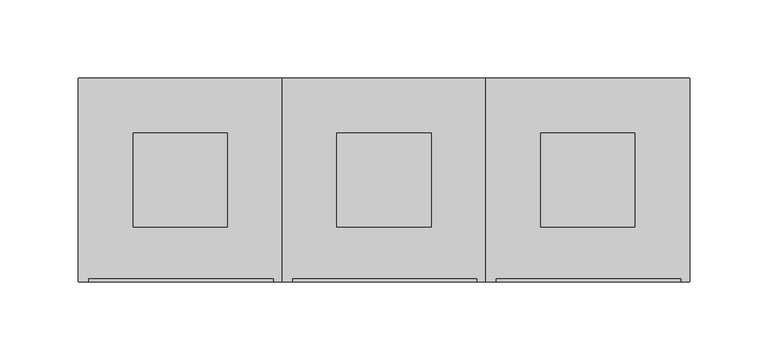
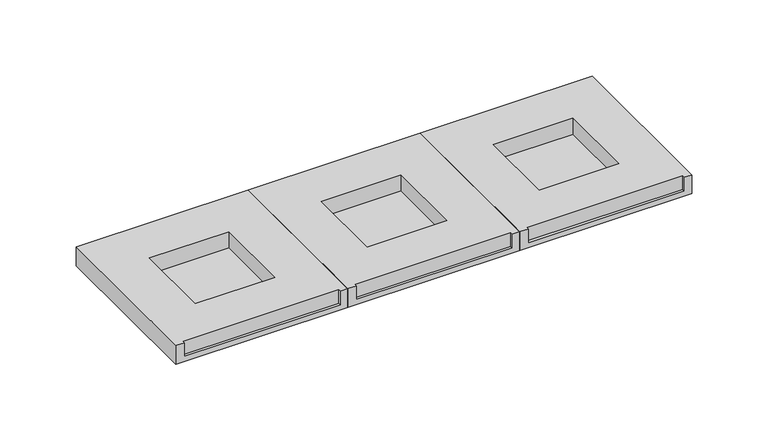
"""IFC4 building model written with IfcOpenShell, lengths in millimetres: duct fitting geometry, Суппорт универсальный - 3 поста - для кабель-каналов DLP - белый : 130мм."""

from ifc_helpers import new_model, si_unit, origin, origin_with_axes, place, context, project, spatial, polyline, outline, extrude, faceted_brep, source, transform, mapped, element, save


def duct_fitting_eff4ef8f(model_context):
    return source(origin(), model_context, "Body", "SolidModel", [
        extrude(outline(polyline([(290.0, -30.0), (230.0, -30.0), (230.0, 30.0), (290.0, 30.0), (290.0, -30.0)])), origin_with_axes(), (0.0, 0.0, 1.0), 2.0),
        faceted_brep([(325.0, -65.0, 15.0), (325.0, 65.0, 15.0), (195.0, 65.0, 15.0), (195.0, -65.0, 15.0), (201.3673154, -65.0, 15.0), (201.3673154, -63.0, 15.0), (319.5913444, -63.0, 15.0), (319.5913444, -65.0, 15.0), (290.0, -30.0, 15.0), (230.0, -30.0, 15.0), (230.0, 30.0, 15.0), (290.0, 30.0, 15.0), (325.0, -65.0, 0.0), (195.0, -65.0, 0.0), (195.0, 65.0, 0.0), (325.0, 65.0, 0.0), (290.0, -30.0, 0.0), (290.0, 30.0, 0.0), (230.0, 30.0, 0.0), (230.0, -30.0, 0.0), (319.5913444, -65.0, 3.9555715), (201.3673154, -65.0, 3.9555715), (319.5913444, -63.0, 3.9555715), (201.3673154, -63.0, 3.9555715)], [[[0, 1, 2, 3, 4, 5, 6, 7], [8, 9, 10, 11]], [[12, 13, 14, 15], [16, 17, 18, 19]], [[1, 0, 12, 15]], [[2, 1, 15, 14]], [[3, 2, 14, 13]], [[13, 12, 0, 7, 20, 21, 4, 3]], [[9, 8, 16, 19]], [[10, 9, 19, 18]], [[11, 10, 18, 17]], [[8, 11, 17, 16]], [[6, 22, 20, 7]], [[22, 23, 21, 20]], [[23, 5, 4, 21]], [[5, 23, 22, 6]]]),
        extrude(outline(polyline([(160.0, -30.0), (100.0, -30.0), (100.0, 30.0), (160.0, 30.0), (160.0, -30.0)])), origin_with_axes(), (0.0, 0.0, 1.0), 2.0),
        faceted_brep([(195.0, -65.0, 15.0), (195.0, 65.0, 15.0), (65.0, 65.0, 15.0), (65.0, -65.0, 15.0), (71.3673154, -65.0, 15.0), (71.3673154, -63.0, 15.0), (189.5913444, -63.0, 15.0), (189.5913444, -65.0, 15.0), (160.0, -30.0, 15.0), (100.0, -30.0, 15.0), (100.0, 30.0, 15.0), (160.0, 30.0, 15.0), (195.0, -65.0, 0.0), (65.0, -65.0, 0.0), (65.0, 65.0, 0.0), (195.0, 65.0, 0.0), (160.0, -30.0, 0.0), (160.0, 30.0, 0.0), (100.0, 30.0, 0.0), (100.0, -30.0, 0.0), (189.5913444, -65.0, 3.9555715), (71.3673154, -65.0, 3.9555715), (189.5913444, -63.0, 3.9555715), (71.3673154, -63.0, 3.9555715)], [[[0, 1, 2, 3, 4, 5, 6, 7], [8, 9, 10, 11]], [[12, 13, 14, 15], [16, 17, 18, 19]], [[1, 0, 12, 15]], [[2, 1, 15, 14]], [[3, 2, 14, 13]], [[13, 12, 0, 7, 20, 21, 4, 3]], [[9, 8, 16, 19]], [[10, 9, 19, 18]], [[11, 10, 18, 17]], [[8, 11, 17, 16]], [[6, 22, 20, 7]], [[22, 23, 21, 20]], [[23, 5, 4, 21]], [[5, 23, 22, 6]]]),
        extrude(outline(polyline([(30.0, -30.0), (-30.0, -30.0), (-30.0, 30.0), (30.0, 30.0), (30.0, -30.0)])), origin_with_axes(), (0.0, 0.0, 1.0), 2.0),
        faceted_brep([(65.0, -65.0, 15.0), (65.0, 65.0, 15.0), (-65.0, 65.0, 15.0), (-65.0, -65.0, 15.0), (-58.6326846, -65.0, 15.0), (-58.6326846, -63.0, 15.0), (59.5913444, -63.0, 15.0), (59.5913444, -65.0, 15.0), (30.0, -30.0, 15.0), (-30.0, -30.0, 15.0), (-30.0, 30.0, 15.0), (30.0, 30.0, 15.0), (65.0, -65.0, 0.0), (-65.0, -65.0, 0.0), (-65.0, 65.0, 0.0), (65.0, 65.0, 0.0), (30.0, -30.0, 0.0), (30.0, 30.0, 0.0), (-30.0, 30.0, 0.0), (-30.0, -30.0, 0.0), (59.5913444, -65.0, 3.9555715), (-58.6326846, -65.0, 3.9555715), (59.5913444, -63.0, 3.9555715), (-58.6326846, -63.0, 3.9555715)], [[[0, 1, 2, 3, 4, 5, 6, 7], [8, 9, 10, 11]], [[12, 13, 14, 15], [16, 17, 18, 19]], [[1, 0, 12, 15]], [[2, 1, 15, 14]], [[3, 2, 14, 13]], [[13, 12, 0, 7, 20, 21, 4, 3]], [[9, 8, 16, 19]], [[10, 9, 19, 18]], [[11, 10, 18, 17]], [[8, 11, 17, 16]], [[6, 22, 20, 7]], [[22, 23, 21, 20]], [[23, 5, 4, 21]], [[5, 23, 22, 6]]]),
    ])


if __name__ == "__main__":
    model = new_model("IFC4")
    model_context = context("Model", 3, world=origin())
    ifc_project = project(units=[si_unit("LENGTHUNIT", "METRE", prefix="MILLI")], contexts=[model_context])
    site = spatial("IfcSite", under=ifc_project)
    building = spatial("IfcBuilding", under=site)
    placement = place(None, origin())
    duct_fitting_shape = duct_fitting_eff4ef8f(model_context)
    element("IfcDuctFitting", 1, ObjectType="Суппорт универсальный - 3 поста - для кабель-каналов DLP - белый : 130мм", at=placement, inside=building, context=model_context, shape_type="MappedRepresentation", body=[
        mapped(duct_fitting_shape, transform((0.0, 0.0, 0.0), x_axis=(1.0, 0.0, 0.0), y_axis=(0.0, 1.0, 0.0), z_axis=(0.0, 0.0, 1.0))),
    ])
    save(model, "model.ifc")
